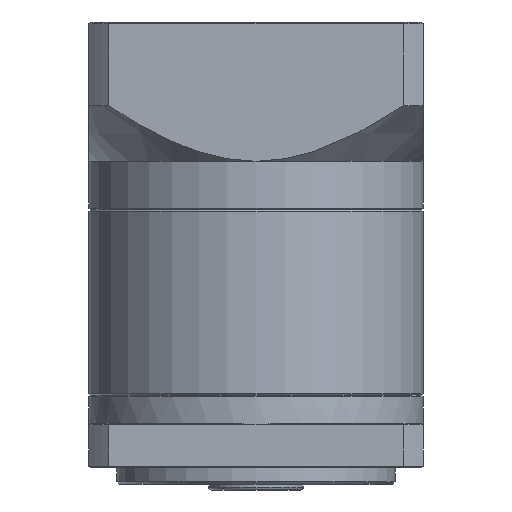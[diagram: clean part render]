
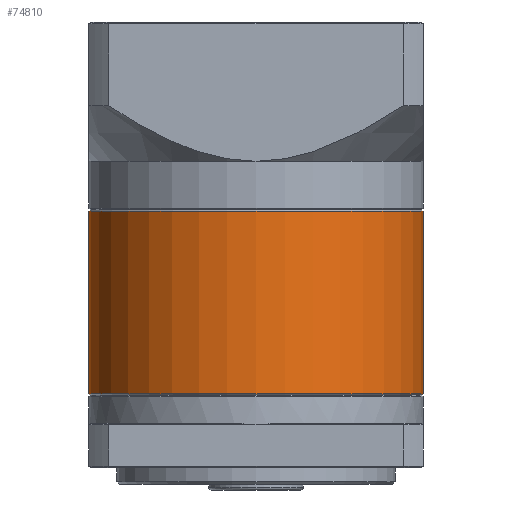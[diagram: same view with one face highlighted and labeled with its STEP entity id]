
A CAD part, front view. The second image highlights one B-rep face of the part: STEP entity #74810.
In plain terms, the highlighted cylindrical face has radius 30 mm (diameter 60 mm), a partial arc.
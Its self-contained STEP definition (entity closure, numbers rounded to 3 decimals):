
#2198 = EDGE_CURVE ( 'NONE', #51489, #51036, #4212, .T. ) ;
#4212 = CIRCLE ( 'NONE', #74397, 30. ) ;
#7537 = CARTESIAN_POINT ( 'NONE',  ( -62.157, 27.835, -1.707 ) ) ;
#9602 = LINE ( 'NONE', #26805, #72868 ) ;
#10553 = EDGE_CURVE ( 'NONE', #54085, #53547, #33072, .T. ) ;
#11855 = VECTOR ( 'NONE', #48425, 1000. ) ;
#11878 = CARTESIAN_POINT ( 'NONE',  ( -32.157, 27.835, -34.507 ) ) ;
#13743 = DIRECTION ( 'NONE',  ( 1., 0., 0. ) ) ;
#22696 = CARTESIAN_POINT ( 'NONE',  ( -92.157, 27.835, -1.707 ) ) ;
#24147 = EDGE_LOOP ( 'NONE', ( #40588, #40675, #41693, #45099 ) ) ;
#26333 = LINE ( 'NONE', #60414, #11855 ) ;
#26805 = CARTESIAN_POINT ( 'NONE',  ( -92.157, 27.835, -1.457 ) ) ;
#27079 = EDGE_CURVE ( 'NONE', #53547, #51489, #9602, .T. ) ;
#32909 = DIRECTION ( 'NONE',  ( 1., 0., 0. ) ) ;
#33020 = DIRECTION ( 'NONE',  ( 0., 0., 1. ) ) ;
#33072 = CIRCLE ( 'NONE', #37348, 30. ) ;
#33122 = CARTESIAN_POINT ( 'NONE',  ( -62.157, 27.835, -34.507 ) ) ;
#35300 = EDGE_CURVE ( 'NONE', #54085, #51036, #26333, .T. ) ;
#35351 = CARTESIAN_POINT ( 'NONE',  ( -62.157, 27.835, -1.457 ) ) ;
#37348 = AXIS2_PLACEMENT_3D ( 'NONE', #7537, #50605, #13743 ) ;
#40588 = ORIENTED_EDGE ( 'NONE', *, *, #35300, .F. ) ;
#40675 = ORIENTED_EDGE ( 'NONE', *, *, #10553, .T. ) ;
#41693 = ORIENTED_EDGE ( 'NONE', *, *, #27079, .T. ) ;
#45099 = ORIENTED_EDGE ( 'NONE', *, *, #2198, .T. ) ;
#48413 = CARTESIAN_POINT ( 'NONE',  ( -32.157, 27.835, -1.707 ) ) ;
#48425 = DIRECTION ( 'NONE',  ( 0., 0., -1. ) ) ;
#50605 = DIRECTION ( 'NONE',  ( 0., 0., -1. ) ) ;
#51036 = VERTEX_POINT ( 'NONE', #11878 ) ;
#51489 = VERTEX_POINT ( 'NONE', #54527 ) ;
#51505 = DIRECTION ( 'NONE',  ( 0., 0., -1. ) ) ;
#53547 = VERTEX_POINT ( 'NONE', #22696 ) ;
#54085 = VERTEX_POINT ( 'NONE', #48413 ) ;
#54527 = CARTESIAN_POINT ( 'NONE',  ( -92.157, 27.835, -34.507 ) ) ;
#55241 = AXIS2_PLACEMENT_3D ( 'NONE', #35351, #71671, #66087 ) ;
#58859 = FACE_OUTER_BOUND ( 'NONE', #24147, .T. ) ;
#60414 = CARTESIAN_POINT ( 'NONE',  ( -32.157, 27.835, -1.457 ) ) ;
#66087 = DIRECTION ( 'NONE',  ( -1., 0., 0. ) ) ;
#68461 = CYLINDRICAL_SURFACE ( 'NONE', #55241, 30. ) ;
#71671 = DIRECTION ( 'NONE',  ( 0., 0., -1. ) ) ;
#72868 = VECTOR ( 'NONE', #51505, 1000. ) ;
#74397 = AXIS2_PLACEMENT_3D ( 'NONE', #33122, #33020, #32909 ) ;
#74810 = ADVANCED_FACE ( 'NONE', ( #58859 ), #68461, .T. ) ;
